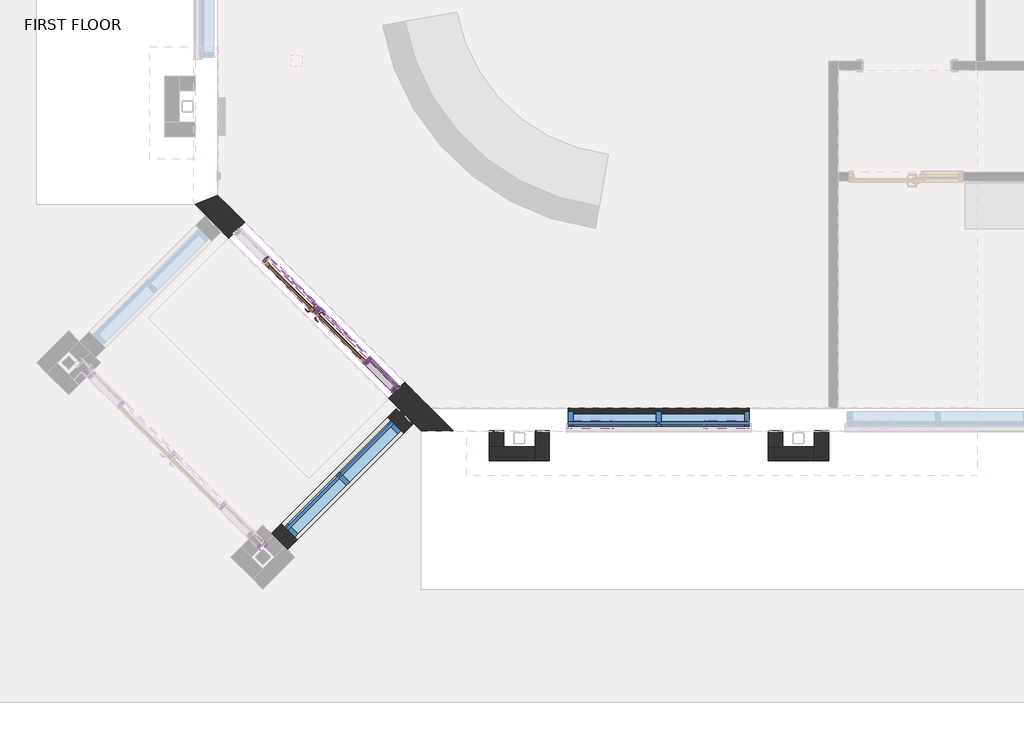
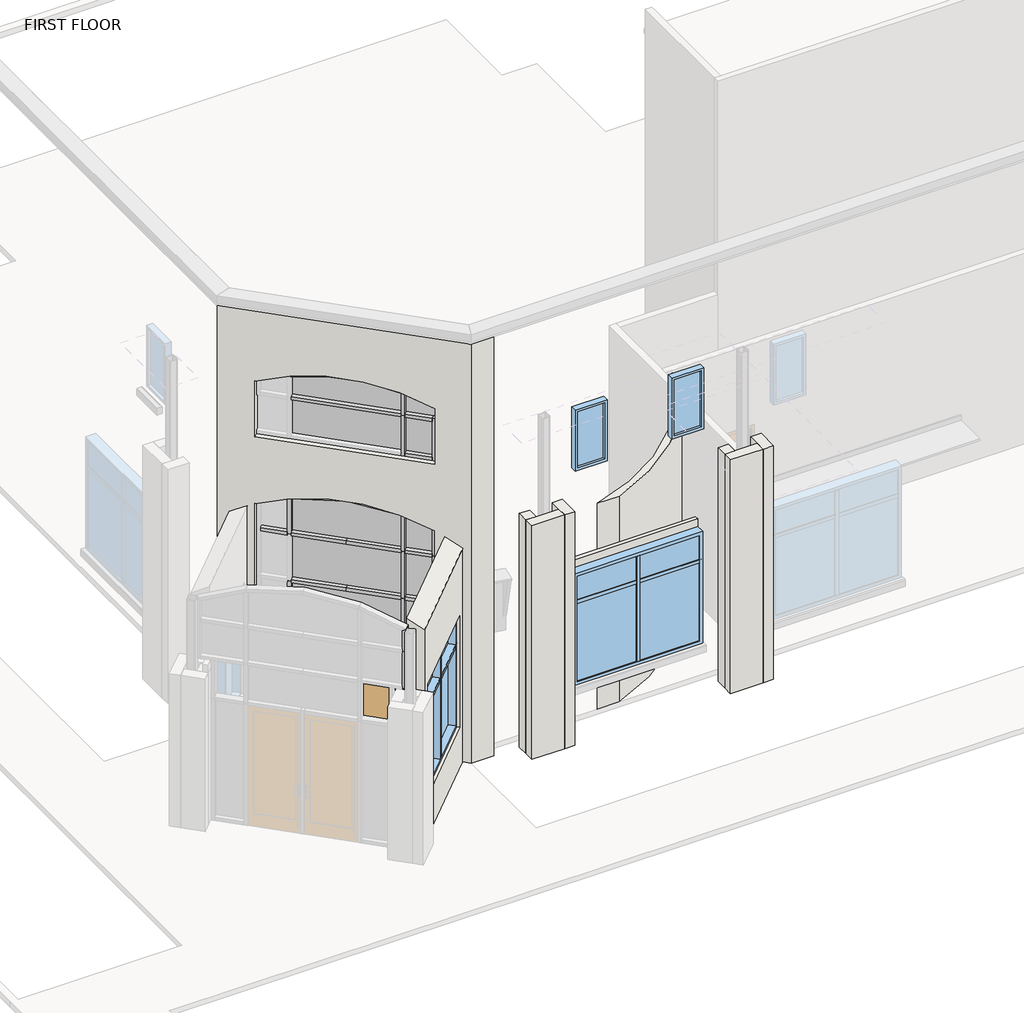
# One storey, part 2 of 7: 38 members, 11 plates, 10 walls, 4 windows, 2 doors.
"""IFC4 building model written with IfcOpenShell, lengths in millimetres."""

from ifc_helpers import new_model, si_unit, point, frame, frame_2d, origin, place, context, project, spatial, polyline, circle_curve, trimmed, segment, composite_curve, outline, extrude, faceted_brep, transform, mapped, element, save
from ifc_brep_helpers import plane_surface, cylinder_surface, revolved_surface, advanced_brep
from components import curtain_wall_store_front_single_med_stile_store_front_single_c6cdc8f1, curtain_wall_store_front_single_med_stile_store_front_single_1d4f68a2, member_1df11e17, member_33497832, member_f0fea5a5, member_5535eeb3, member_57980dff, member_ee409385, member_c7d2ba5d, member_96cc7568, member_ca079636, member_623bfa76, member_6e56d3c6, member_7b70a9c6, member_9ba9524c, member_fa7abc04, member_44ea0774, member_e557a406, member_f133ae23, member_58a4a87b, member_058a004c, member_fd47e183, member_ba732fc4, member_cd5e3336, member_d7af48b5, member_da3023d3, member_091e92f8, member_4be7d09b, system_panel_glazed_7ef526e5, system_panel_glazed_cf9f2373, system_panel_glazed_ee5f99dd, system_panel_glazed_625fda9a, system_panel_glazed_8e084865, system_panel_glazed_9944f469, system_panel_glazed_894d5202, system_panel_glazed_82fe0f80, system_panel_glazed_30649ce8, system_panel_glazed_3c5eea1a, system_panel_glazed_65f6affc, aluminum_exterior_window_single_3885_e2dbf674, storefront_window_28fc684a, window_5003604b

model = new_model("IFC4")

# Units and contexts
model_context = context("Model", 3, world=origin())
ifc_project = project(units=[si_unit("LENGTHUNIT", "METRE", prefix="MILLI")], contexts=[model_context])

# Site, building, storey
site = spatial("IfcSite", under=ifc_project)
building = spatial("IfcBuilding", under=site)
storey = spatial("IfcBuildingStorey", under=building, Name="FIRST FLOOR", Elevation=30480.0)

# Doors
placement = place(None, origin())
curtain_wall_store_front_single_med_stile_store_front_single_shape = curtain_wall_store_front_single_med_stile_store_front_single_c6cdc8f1(model_context)
element("IfcDoor", 1, ObjectType="Curtain Wall-Store Front-Single Med Stile : Store Front Single Door", at=placement, inside=storey, context=model_context, shape_type="MappedRepresentation", body=[
    mapped(curtain_wall_store_front_single_med_stile_store_front_single_shape, transform((-14843.33754, -4975.3705256, 30480.0), x_axis=(0.707106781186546, -0.7071067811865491, 0.0), y_axis=(0.7071067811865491, 0.707106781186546, 0.0), z_axis=(0.0, 0.0, 1.0))),
])
curtain_wall_store_front_single_med_stile_store_front_single_2_shape = curtain_wall_store_front_single_med_stile_store_front_single_1d4f68a2(model_context)
element("IfcDoor", 2, ObjectType="Curtain Wall-Store Front-Single Med Stile : Store Front Single Door", at=placement, inside=storey, context=model_context, shape_type="MappedRepresentation", body=[
    mapped(curtain_wall_store_front_single_med_stile_store_front_single_2_shape, transform((-15525.8370052, -4292.8710604, 30480.0), x_axis=(-0.707106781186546, 0.7071067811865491, 0.0), y_axis=(-0.7071067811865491, -0.707106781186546, 0.0), z_axis=(0.0, 0.0, 1.0))),
])

# Members
member_shape = member_1df11e17(model_context)
element("IfcMember", 3, ObjectType="Rectangular Mullion : 2.5\" x 5\" rectangular", at=placement, inside=storey, context=model_context, shape_type="MappedRepresentation", body=[
    mapped(member_shape, transform((-15889.5373781, -3929.1706875, 32918.4), x_axis=(0.0, 0.0, 1.0), y_axis=(-0.707106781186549, -0.7071067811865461, 0.0), z_axis=(0.707106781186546, -0.7071067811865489, 0.0))),
])
element("IfcMember", 4, ObjectType="Rectangular Mullion : 2.5\" x 5\" rectangular", at=placement, inside=storey, context=model_context, shape_type="MappedRepresentation", body=[
    mapped(member_shape, transform((-14151.8578187, -5666.8502469, 32918.4), x_axis=(0.0, 0.0, 1.0), y_axis=(-0.7071067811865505, -0.7071067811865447, 0.0), z_axis=(0.7071067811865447, -0.7071067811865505, 0.0))),
])
element("IfcMember", 5, ObjectType="Rectangular Mullion : 2.5\" x 5\" rectangular", at=placement, inside=storey, context=model_context, shape_type="MappedRepresentation", body=[
    mapped(member_shape, transform((-14151.8578187, -5666.8502469, 34442.4), x_axis=(0.0, 0.0, 1.0), y_axis=(-0.7071067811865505, -0.7071067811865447, 0.0), z_axis=(0.7071067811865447, -0.7071067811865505, 0.0))),
])
element("IfcMember", 6, ObjectType="Rectangular Mullion : 2.5\" x 5\" rectangular", at=placement, inside=storey, context=model_context, shape_type="MappedRepresentation", body=[
    mapped(member_shape, transform((-15889.5373781, -3929.1706875, 34442.4), x_axis=(0.0, 0.0, 1.0), y_axis=(-0.70710678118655, -0.7071067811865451, 0.0), z_axis=(0.7071067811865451, -0.70710678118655, 0.0))),
])
element("IfcMember", 7, ObjectType="Rectangular Mullion : 2.5\" x 5\" rectangular", at=placement, inside=storey, context=model_context, shape_type="MappedRepresentation", body=[
    mapped(member_shape, transform((-14151.8578187, -5666.8502469, 33502.6), x_axis=(0.0, 0.0, 1.0), y_axis=(-0.7071067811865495, -0.7071067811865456, 0.0), z_axis=(0.7071067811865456, -0.7071067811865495, 0.0))),
])
element("IfcMember", 8, ObjectType="Rectangular Mullion : 2.5\" x 5\" rectangular", at=placement, inside=storey, context=model_context, shape_type="MappedRepresentation", body=[
    mapped(member_shape, transform((-14151.8578187, -5666.8502469, 37160.2), x_axis=(0.0, 0.0, 1.0), y_axis=(-0.7071067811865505, -0.7071067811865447, 0.0), z_axis=(0.7071067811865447, -0.7071067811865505, 0.0))),
])
member_2_shape = member_33497832(model_context)
element("IfcMember", 9, ObjectType="Rectangular Mullion : 2.5\" x 5\" rectangular", at=placement, inside=storey, context=model_context, shape_type="MappedRepresentation", body=[
    mapped(member_2_shape, transform((-15207.0379129, -4611.6701527, 32918.4), x_axis=(0.0, 0.0, 1.0), y_axis=(-0.7071067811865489, -0.7071067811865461, 0.0), z_axis=(0.7071067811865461, -0.7071067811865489, 0.0))),
])
element("IfcMember", 10, ObjectType="Rectangular Mullion : 2.5\" x 5\" rectangular", at=placement, inside=storey, context=model_context, shape_type="MappedRepresentation", body=[
    mapped(member_2_shape, transform((-14524.5384477, -5294.1696179, 32918.4), x_axis=(0.0, 0.0, 1.0), y_axis=(-0.7071067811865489, -0.7071067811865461, 0.0), z_axis=(0.7071067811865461, -0.7071067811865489, 0.0))),
])
member_3_shape = member_f0fea5a5(model_context)
element("IfcMember", 11, ObjectType="Rectangular Mullion : 2.5\" x 5\" rectangular", at=placement, inside=storey, context=model_context, shape_type="MappedRepresentation", body=[
    mapped(member_3_shape, transform((-14502.0878074, -5316.6202582, 30480.0), x_axis=(0.707106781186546, -0.7071067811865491, 0.0), y_axis=(-0.7071067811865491, -0.707106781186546, 0.0), z_axis=(0.0, 0.0, -1.0))),
])
element("IfcMember", 12, ObjectType="Rectangular Mullion : 2.5\" x 5\" rectangular", at=placement, inside=storey, context=model_context, shape_type="MappedRepresentation", body=[
    mapped(member_3_shape, transform((-15867.0867378, -3951.6213278, 30480.0), x_axis=(0.707106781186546, -0.7071067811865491, 0.0), y_axis=(-0.7071067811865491, -0.707106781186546, 0.0), z_axis=(0.0, 0.0, -1.0))),
])
member_4_shape = member_5535eeb3(model_context)
element("IfcMember", 13, ObjectType="Rectangular Mullion : 2.5\" x 5\" rectangular", at=placement, inside=storey, context=model_context, shape_type="MappedRepresentation", body=[
    mapped(member_4_shape, transform((-14479.6371671, -5339.0708985, 30480.0), x_axis=(0.0, 0.0, -1.0), y_axis=(-0.7071067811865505, -0.7071067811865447, 0.0), z_axis=(-0.7071067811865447, 0.7071067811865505, 0.0))),
])
element("IfcMember", 14, ObjectType="Rectangular Mullion : 2.5\" x 5\" rectangular", at=placement, inside=storey, context=model_context, shape_type="MappedRepresentation", body=[
    mapped(member_4_shape, transform((-14479.6371671, -5339.0708985, 36347.4), x_axis=(0.0, 0.0, -1.0), y_axis=(-0.7071067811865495, -0.7071067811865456, 0.0), z_axis=(-0.7071067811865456, 0.7071067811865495, 0.0))),
])
member_5_shape = member_57980dff(model_context)
element("IfcMember", 15, ObjectType="Rectangular Mullion : 2.5\" x 5\" rectangular", at=placement, inside=storey, context=model_context, shape_type="MappedRepresentation", body=[
    mapped(member_5_shape, transform((-15184.5872726, -4634.120793, 30480.0), x_axis=(0.707106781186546, -0.7071067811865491, 0.0), y_axis=(-0.7071067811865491, -0.707106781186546, 0.0), z_axis=(0.0, 0.0, -1.0))),
])
member_6_shape = member_ee409385(model_context)
element("IfcMember", 16, ObjectType="Rectangular Mullion : 2.5\" x 5\" rectangular", at=placement, inside=storey, context=model_context, shape_type="MappedRepresentation", body=[
    mapped(member_6_shape, transform((-14106.9565381, -5711.7515275, 30480.0), x_axis=(0.707106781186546, -0.7071067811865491, 0.0), y_axis=(-0.7071067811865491, -0.707106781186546, 0.0), z_axis=(0.0, 0.0, -1.0))),
])
member_7_shape = member_c7d2ba5d(model_context)
element("IfcMember", 17, ObjectType="Rectangular Mullion : 2.5\" x 5\" rectangular", at=placement, inside=storey, context=model_context, shape_type="MappedRepresentation", body=[
    mapped(member_7_shape, transform((-15184.5872726, -4634.120793, 34442.4), x_axis=(0.0, 0.0, 1.0), y_axis=(-0.7071067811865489, -0.7071067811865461, 0.0), z_axis=(0.7071067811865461, -0.7071067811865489, 0.0))),
])
element("IfcMember", 18, ObjectType="Rectangular Mullion : 2.5\" x 5\" rectangular", at=placement, inside=storey, context=model_context, shape_type="MappedRepresentation", body=[
    mapped(member_7_shape, transform((-15184.5872726, -4634.120793, 33502.6), x_axis=(0.0, 0.0, 1.0), y_axis=(-0.7071067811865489, -0.7071067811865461, 0.0), z_axis=(0.7071067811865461, -0.7071067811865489, 0.0))),
])
element("IfcMember", 19, ObjectType="Rectangular Mullion : 2.5\" x 5\" rectangular", at=placement, inside=storey, context=model_context, shape_type="MappedRepresentation", body=[
    mapped(member_7_shape, transform((-14524.5384477, -5294.1696179, 34442.4), x_axis=(0.0, 0.0, 1.0), y_axis=(-0.7071067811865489, -0.7071067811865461, 0.0), z_axis=(0.7071067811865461, -0.7071067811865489, 0.0))),
])
element("IfcMember", 20, ObjectType="Rectangular Mullion : 2.5\" x 5\" rectangular", at=placement, inside=storey, context=model_context, shape_type="MappedRepresentation", body=[
    mapped(member_7_shape, transform((-14524.5384477, -5294.1696179, 33502.6), x_axis=(0.0, 0.0, 1.0), y_axis=(-0.7071067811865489, -0.7071067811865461, 0.0), z_axis=(0.7071067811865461, -0.7071067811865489, 0.0))),
])
member_8_shape = member_96cc7568(model_context)
element("IfcMember", 21, ObjectType="Rectangular Mullion : 2.5\" x 5\" rectangular", at=placement, inside=storey, context=model_context, shape_type="MappedRepresentation", body=[
    mapped(member_8_shape, transform((-14502.0878074, -5316.6202582, 32918.4), x_axis=(0.707106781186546, -0.7071067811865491, 0.0), y_axis=(-0.7071067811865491, -0.707106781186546, 0.0), z_axis=(0.0, 0.0, -1.0))),
])
element("IfcMember", 22, ObjectType="Rectangular Mullion : 2.5\" x 5\" rectangular", at=placement, inside=storey, context=model_context, shape_type="MappedRepresentation", body=[
    mapped(member_8_shape, transform((-15867.0867378, -3951.6213278, 32918.4), x_axis=(0.707106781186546, -0.7071067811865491, 0.0), y_axis=(-0.7071067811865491, -0.707106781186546, 0.0), z_axis=(0.0, 0.0, -1.0))),
])
member_9_shape = member_ca079636(model_context)
element("IfcMember", 23, ObjectType="Rectangular Mullion : 2.5\" x 5\" rectangular", at=placement, inside=storey, context=model_context, shape_type="MappedRepresentation", body=[
    mapped(member_9_shape, transform((-14502.0878074, -5316.6202582, 33502.6), x_axis=(0.707106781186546, -0.7071067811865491, 0.0), y_axis=(-0.7071067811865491, -0.707106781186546, 0.0), z_axis=(0.0, 0.0, -1.0))),
])
member_10_shape = member_623bfa76(model_context)
element("IfcMember", 24, ObjectType="Rectangular Mullion : 2.5\" x 5\" rectangular", at=placement, inside=storey, context=model_context, shape_type="MappedRepresentation", body=[
    mapped(member_10_shape, transform((-14106.9565381, -5711.7515275, 32918.4), x_axis=(0.707106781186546, -0.7071067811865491, 0.0), y_axis=(-0.7071067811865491, -0.707106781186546, 0.0), z_axis=(0.0, 0.0, -1.0))),
])
member_11_shape = member_6e56d3c6(model_context)
element("IfcMember", 25, ObjectType="Rectangular Mullion : 2.5\" x 5\" rectangular", at=placement, inside=storey, context=model_context, shape_type="MappedRepresentation", body=[
    mapped(member_11_shape, transform((-14502.0878074, -5316.6202582, 34442.4), x_axis=(0.707106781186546, -0.7071067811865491, 0.0), y_axis=(-0.7071067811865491, -0.707106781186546, 0.0), z_axis=(0.0, 0.0, -1.0))),
])
member_12_shape = member_7b70a9c6(model_context)
element("IfcMember", 26, ObjectType="Rectangular Mullion : 2.5\" x 5\" rectangular", at=placement, inside=storey, context=model_context, shape_type="MappedRepresentation", body=[
    mapped(member_12_shape, transform((-15867.0867378, -3951.6213278, 34442.4), x_axis=(0.707106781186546, -0.7071067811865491, 0.0), y_axis=(-0.7071067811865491, -0.707106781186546, 0.0), z_axis=(0.0, 0.0, -1.0))),
])
member_13_shape = member_9ba9524c(model_context)
element("IfcMember", 27, ObjectType="Rectangular Mullion : 2.5\" x 5\" rectangular", at=placement, inside=storey, context=model_context, shape_type="MappedRepresentation", body=[
    mapped(member_13_shape, transform((-15184.5872726, -4634.120793, 35335.2420044), x_axis=(-0.0008797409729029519, 0.0008797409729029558, 0.9999992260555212), y_axis=(-0.7071067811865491, -0.7071067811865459, 0.0), z_axis=(0.7071062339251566, -0.7071062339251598, 0.0012441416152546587))),
])
member_14_shape = member_fa7abc04(model_context)
element("IfcMember", 28, ObjectType="Rectangular Mullion : 2.5\" x 5\" rectangular", at=placement, inside=storey, context=model_context, shape_type="MappedRepresentation", body=[
    mapped(member_14_shape, transform((-14502.0878074, -5316.6202582, 35209.163552), x_axis=(0.1824814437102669, -0.1824814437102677, 0.9661268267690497), y_axis=(-0.7071067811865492, -0.707106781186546, 0.0), z_axis=(0.6831548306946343, -0.6831548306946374, -0.2580677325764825))),
])
member_15_shape = member_44ea0774(model_context)
element("IfcMember", 29, ObjectType="Rectangular Mullion : 2.5\" x 5\" rectangular", at=placement, inside=storey, context=model_context, shape_type="MappedRepresentation", body=[
    mapped(member_15_shape, transform((-14106.9565381, -5711.7515275, 35011.0242412), x_axis=(0.2886379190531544, -0.28863791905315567, 0.9128944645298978), y_axis=(-0.7071067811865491, -0.707106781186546, 0.0), z_axis=(0.6455138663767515, -0.6455138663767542, -0.4081956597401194))),
])
member_16_shape = member_e557a406(model_context)
element("IfcMember", 30, ObjectType="Rectangular Mullion : 2.5\" x 5\" rectangular", at=placement, inside=storey, context=model_context, shape_type="MappedRepresentation", body=[
    mapped(member_16_shape, transform((-14106.9565381, -5711.7515275, 33502.6), x_axis=(0.707106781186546, -0.7071067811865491, 0.0), y_axis=(-0.7071067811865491, -0.707106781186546, 0.0), z_axis=(0.0, 0.0, -1.0))),
])
member_17_shape = member_f133ae23(model_context)
element("IfcMember", 31, ObjectType="Rectangular Mullion : 2.5\" x 5\" rectangular", at=placement, inside=storey, context=model_context, shape_type="MappedRepresentation", body=[
    mapped(member_17_shape, transform((-14106.9565381, -5711.7515275, 34442.4), x_axis=(0.707106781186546, -0.7071067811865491, 0.0), y_axis=(-0.7071067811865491, -0.707106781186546, 0.0), z_axis=(0.0, 0.0, -1.0))),
])
member_18_shape = member_58a4a87b(model_context)
element("IfcMember", 32, ObjectType="Rectangular Mullion : 2.5\" x 5\" rectangular", at=placement, inside=storey, context=model_context, shape_type="MappedRepresentation", body=[
    mapped(member_18_shape, transform((-14502.0878074, -5316.6202582, 36347.4), x_axis=(0.7071067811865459, -0.7071067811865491, 0.0), y_axis=(-0.7071067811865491, -0.7071067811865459, 0.0), z_axis=(0.0, 0.0, -1.0))),
])
member_19_shape = member_058a004c(model_context)
element("IfcMember", 33, ObjectType="Rectangular Mullion : 2.5\" x 5\" rectangular", at=placement, inside=storey, context=model_context, shape_type="MappedRepresentation", body=[
    mapped(member_19_shape, transform((-14502.0878074, -5316.6202582, 37160.2), x_axis=(0.7071067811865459, -0.7071067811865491, 0.0), y_axis=(-0.7071067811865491, -0.7071067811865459, 0.0), z_axis=(0.0, 0.0, -1.0))),
])
member_20_shape = member_fd47e183(model_context)
element("IfcMember", 34, ObjectType="Rectangular Mullion : 2.5\" x 5\" rectangular", at=placement, inside=storey, context=model_context, shape_type="MappedRepresentation", body=[
    mapped(member_20_shape, transform((-14524.5384477, -5294.1696179, 37160.2), x_axis=(0.0, 0.0, 1.0), y_axis=(-0.7071067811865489, -0.7071067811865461, 0.0), z_axis=(0.7071067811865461, -0.7071067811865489, 0.0))),
])
member_21_shape = member_ba732fc4(model_context)
element("IfcMember", 35, ObjectType="Rectangular Mullion : 2.5\" x 5\" rectangular", at=placement, inside=storey, context=model_context, shape_type="MappedRepresentation", body=[
    mapped(member_21_shape, transform((-15894.9395193, -7831.7583014, 33680.4), x_axis=(0.707106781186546, -0.7071067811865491, 0.0), y_axis=(-0.7071067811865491, -0.707106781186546, 0.0), z_axis=(0.0, 0.0, -1.0))),
])
member_22_shape = member_cd5e3336(model_context)
element("IfcMember", 36, ObjectType="Rectangular Mullion : 2.5\" x 5\" rectangular", at=placement, inside=storey, context=model_context, shape_type="MappedRepresentation", body=[
    mapped(member_22_shape, transform((-15894.9395193, -7831.7583014, 34442.4), x_axis=(0.707106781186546, -0.7071067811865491, 0.0), y_axis=(-0.7071067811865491, -0.707106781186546, 0.0), z_axis=(0.0, 0.0, -1.0))),
])
member_23_shape = member_d7af48b5(model_context)
element("IfcMember", 37, ObjectType="Rectangular Mullion : 2.5\" x 5\" rectangular", at=placement, inside=storey, context=model_context, shape_type="MappedRepresentation", body=[
    mapped(member_23_shape, transform((-15894.9395193, -7831.7583014, 33705.8), x_axis=(0.707106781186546, -0.7071067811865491, 0.0), y_axis=(-0.7071067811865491, -0.707106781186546, 0.0), z_axis=(0.0, 0.0, -1.0))),
])
member_24_shape = member_da3023d3(model_context)
element("IfcMember", 38, ObjectType="Rectangular Mullion : 2.5\" x 5\" rectangular", at=placement, inside=storey, context=model_context, shape_type="MappedRepresentation", body=[
    mapped(member_24_shape, transform((-14106.9565381, -5711.7515275, 37458.6082327), x_axis=(0.28863791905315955, -0.2886379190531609, 0.9128944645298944), y_axis=(-0.7071067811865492, -0.7071067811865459, 0.0), z_axis=(0.6455138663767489, -0.645513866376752, -0.4081956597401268))),
])
member_25_shape = member_091e92f8(model_context)
element("IfcMember", 39, ObjectType="Rectangular Mullion : 2.5\" x 5\" rectangular", at=placement, inside=storey, context=model_context, shape_type="MappedRepresentation", body=[
    mapped(member_25_shape, transform((-14106.9565381, -5711.7515275, 36347.4), x_axis=(0.7071067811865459, -0.7071067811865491, 0.0), y_axis=(-0.7071067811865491, -0.7071067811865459, 0.0), z_axis=(0.0, 0.0, -1.0))),
])
member_26_shape = member_4be7d09b(model_context)
element("IfcMember", 40, ObjectType="Rectangular Mullion : 2.5\" x 5\" rectangular", at=placement, inside=storey, context=model_context, shape_type="MappedRepresentation", body=[
    mapped(member_26_shape, transform((-14502.0878074, -5316.6202582, 37656.7475435), x_axis=(0.1824814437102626, -0.18248144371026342, 0.9661268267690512), y_axis=(-0.707106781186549, -0.7071067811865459, 0.0), z_axis=(0.6831548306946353, -0.6831548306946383, -0.2580677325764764))),
])

# Plates
system_panel_glazed_shape = system_panel_glazed_7ef526e5(model_context)
element("IfcPlate", 41, ObjectType="System Panel : Glazed", at=placement, inside=storey, context=model_context, shape_type="MappedRepresentation", body=[
    mapped(system_panel_glazed_shape, transform((-14315.7474929, -5502.9605727, 30543.5), x_axis=(0.707106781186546, -0.7071067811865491, 0.0), y_axis=(0.7071067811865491, 0.707106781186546, 0.0), z_axis=(0.0, 0.0, 1.0))),
])
system_panel_glazed_2_shape = system_panel_glazed_cf9f2373(model_context)
element("IfcPlate", 42, ObjectType="System Panel : Glazed", at=placement, inside=storey, context=model_context, shape_type="MappedRepresentation", body=[
    mapped(system_panel_glazed_2_shape, transform((-14315.7474929, -5502.9605727, 32950.15), x_axis=(0.707106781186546, -0.7071067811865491, 0.0), y_axis=(0.7071067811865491, 0.707106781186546, 0.0), z_axis=(0.0, 0.0, 1.0))),
])
system_panel_glazed_3_shape = system_panel_glazed_ee5f99dd(model_context)
element("IfcPlate", 43, ObjectType="System Panel : Glazed", at=placement, inside=storey, context=model_context, shape_type="MappedRepresentation", body=[
    mapped(system_panel_glazed_3_shape, transform((-15184.5872726, -4634.120793, 32950.15), x_axis=(0.707106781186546, -0.7071067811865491, 0.0), y_axis=(0.7071067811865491, 0.707106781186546, 0.0), z_axis=(0.0, 0.0, 1.0))),
])
system_panel_glazed_4_shape = system_panel_glazed_625fda9a(model_context)
element("IfcPlate", 44, ObjectType="System Panel : Glazed", at=placement, inside=storey, context=model_context, shape_type="MappedRepresentation", body=[
    mapped(system_panel_glazed_4_shape, transform((-14315.7474929, -5502.9605727, 33534.35), x_axis=(0.707106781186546, -0.7071067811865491, 0.0), y_axis=(0.7071067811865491, 0.707106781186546, 0.0), z_axis=(0.0, 0.0, 1.0))),
])
system_panel_glazed_5_shape = system_panel_glazed_8e084865(model_context)
element("IfcPlate", 45, ObjectType="System Panel : Glazed", at=placement, inside=storey, context=model_context, shape_type="MappedRepresentation", body=[
    mapped(system_panel_glazed_5_shape, transform((-15184.5872726, -4634.120793, 33534.35), x_axis=(0.707106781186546, -0.7071067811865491, 0.0), y_axis=(0.7071067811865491, 0.707106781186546, 0.0), z_axis=(0.0, 0.0, 1.0))),
])
system_panel_glazed_6_shape = system_panel_glazed_9944f469(model_context)
element("IfcPlate", 46, ObjectType="System Panel : Glazed", at=placement, inside=storey, context=model_context, shape_type="MappedRepresentation", body=[
    mapped(system_panel_glazed_6_shape, transform((-15184.5872726, -4634.120793, 34474.15), x_axis=(0.707106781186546, -0.7071067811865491, 0.0), y_axis=(0.7071067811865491, 0.707106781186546, 0.0), z_axis=(0.0, 0.0, 1.0))),
])
system_panel_glazed_7_shape = system_panel_glazed_894d5202(model_context)
element("IfcPlate", 47, ObjectType="System Panel : Glazed", at=placement, inside=storey, context=model_context, shape_type="MappedRepresentation", body=[
    mapped(system_panel_glazed_7_shape, transform((-14315.7474929, -5502.9605727, 34474.15), x_axis=(0.707106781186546, -0.7071067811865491, 0.0), y_axis=(0.7071067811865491, 0.707106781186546, 0.0), z_axis=(0.0, 0.0, 1.0))),
])
system_panel_glazed_8_shape = system_panel_glazed_82fe0f80(model_context)
element("IfcPlate", 48, ObjectType="System Panel : Glazed", at=placement, inside=storey, context=model_context, shape_type="MappedRepresentation", body=[
    mapped(system_panel_glazed_8_shape, transform((-14315.7474929, -5502.9605727, 36410.9), x_axis=(0.7071067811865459, -0.7071067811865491, 0.0), y_axis=(0.7071067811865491, 0.7071067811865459, 0.0), z_axis=(0.0, 0.0, 1.0))),
])
system_panel_glazed_9_shape = system_panel_glazed_30649ce8(model_context)
element("IfcPlate", 49, ObjectType="System Panel : Glazed", at=placement, inside=storey, context=model_context, shape_type="MappedRepresentation", body=[
    mapped(system_panel_glazed_9_shape, transform((-15184.5872726, -4634.120793, 36410.9), x_axis=(0.7071067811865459, -0.7071067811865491, 0.0), y_axis=(0.7071067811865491, 0.7071067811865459, 0.0), z_axis=(0.0, 0.0, 1.0))),
])
system_panel_glazed_10_shape = system_panel_glazed_3c5eea1a(model_context)
element("IfcPlate", 50, ObjectType="System Panel : Glazed", at=placement, inside=storey, context=model_context, shape_type="MappedRepresentation", body=[
    mapped(system_panel_glazed_10_shape, transform((-15184.5872726, -4634.120793, 37191.95), x_axis=(0.7071067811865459, -0.7071067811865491, 0.0), y_axis=(0.7071067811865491, 0.7071067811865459, 0.0), z_axis=(0.0, 0.0, 1.0))),
])
system_panel_glazed_11_shape = system_panel_glazed_65f6affc(model_context)
element("IfcPlate", 51, ObjectType="System Panel : Glazed", at=placement, inside=storey, context=model_context, shape_type="MappedRepresentation", body=[
    mapped(system_panel_glazed_11_shape, transform((-14293.2968526, -5525.411213, 37191.95), x_axis=(0.7071067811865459, -0.7071067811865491, 0.0), y_axis=(0.7071067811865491, 0.7071067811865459, 0.0), z_axis=(0.0, 0.0, 1.0))),
])

# Walls
element("IfcWall", 52, ObjectType="Exterior - Brick on Mtl. Stud", at=placement, inside=storey, context=model_context, shape_type="AdvancedBrep", body=[
    advanced_brep(
    [(-16154.4549337, -3448.726985, 30480.0), (-16519.635253, -3083.5466657, 30480.0), (-16519.635253, -3083.5466657, 38890.816921), (-13650.1829592, -5952.9989595, 38890.816921), (-13647.0079592, -5956.1739595, 38899.5401618), (-13647.0079592, -5956.1739595, 39014.4), (-13345.3829592, -6257.7989595, 39014.4), (-13345.3829592, -6257.7989595, 30480.0), (-13999.1934646, -5603.988454, 30480.0), (-13999.1934646, -5603.988454, 35011.0242412), (-16154.4549337, -3448.726985, 35006.8677208), (-16154.4549337, -3448.726985, 37454.4517124), (-16154.4549337, -3448.726985, 36347.4), (-13999.1934646, -5603.988454, 36347.4), (-13999.1934646, -5603.988454, 37458.6082327), (-13776.435253, -6257.7989595, 39014.4), (-16824.435253, -3209.7989595, 39014.4), (-16824.435253, -3209.7989595, 30480.0), (-16680.7511551, -3353.4830574, 30480.0), (-16465.2250082, -3569.0092043, 30480.0), (-16369.9810806, -3664.2531319, 30480.0), (-16369.9810806, -3664.2531319, 35006.8677208), (-14214.7196115, -5819.514601, 35011.0242412), (-14214.7196115, -5819.514601, 30480.0), (-14092.9892813, -5941.2449312, 30480.0), (-13877.4631344, -6156.7710781, 30480.0), (-13776.435253, -6257.7989595, 30480.0), (-16369.9810806, -3664.2531319, 36347.4), (-16369.9810806, -3664.2531319, 37454.4517124), (-14214.7196115, -5819.514601, 37458.6082327), (-14214.7196115, -5819.514601, 36347.4), (-13651.4980873, -5956.1739595, 39014.4), (-16522.810253, -3084.8617937, 39014.4), (-16522.810253, -3084.8617937, 38899.5401618), (-13651.4980873, -5956.1739595, 38899.5401618)],
    [
        (0, 1),
        (1, 2),
        (2, 3),
        (3, 4),
        (4, 5),
        (5, 6),
        (6, 7),
        (7, 8),
        (8, 9),
        (9, 10, circle_curve(frame((-15073.5496635, -4529.6322552, 31613.0859867), z_axis=(-0.7071067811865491, -0.707106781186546, 0.0), x_axis=(-0.707106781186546, 0.7071067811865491, 0.0)), 3722.1588985)),
        (10, 0),
        (11, 12),
        (12, 13),
        (13, 14),
        (14, 11, circle_curve(frame((-15073.5496635, -4529.6322552, 34060.6699782), z_axis=(-0.7071067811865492, -0.7071067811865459, 0.0), x_axis=(-0.7071067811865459, 0.7071067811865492, 0.0)), 3722.1588985)),
        (15, 16),
        (16, 17),
        (17, 18),
        (18, 19),
        (19, 20),
        (20, 21),
        (21, 22, circle_curve(frame((-15289.0758104, -4745.1584021, 31613.0859867), z_axis=(0.7071067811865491, 0.707106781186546, 0.0), x_axis=(-0.707106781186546, 0.7071067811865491, 0.0)), 3722.1588985)),
        (22, 23),
        (23, 24),
        (24, 25),
        (25, 26),
        (26, 15),
        (27, 28),
        (28, 29, circle_curve(frame((-15289.0758104, -4745.1584021, 34060.6699782), z_axis=(0.7071067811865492, 0.7071067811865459, 0.0), x_axis=(-0.7071067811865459, 0.7071067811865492, 0.0)), 3722.1588985)),
        (29, 30),
        (30, 27),
        (17, 1),
        (0, 20),
        (7, 26),
        (23, 8),
        (15, 6),
        (5, 31),
        (31, 32),
        (32, 16),
        (10, 21),
        (22, 9),
        (32, 33),
        (33, 2),
        (27, 12),
        (11, 28),
        (14, 29),
        (13, 30),
        (4, 34),
        (34, 31),
        (3, 34),
        (34, 33),
    ],
    [
        plane_surface(frame((-11763.6128698, -7839.5690489, 30480.0), z_axis=(0.707106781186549, 0.7071067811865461, 0.0), x_axis=(-0.7071067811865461, 0.707106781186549, 0.0))),
        plane_surface(frame((-11979.1390167, -8055.0951958, 30480.0), z_axis=(-0.707106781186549, -0.7071067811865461, 0.0), x_axis=(0.7071067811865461, -0.707106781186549, 0.0))),
        plane_surface(frame((-13605.5460327, -5997.635886, 30480.0), z_axis=(0.0, 0.0, -1.0000000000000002), x_axis=(-0.7071067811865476, -0.7071067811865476, 0.0))),
        plane_surface(frame((-16564.2721796, -3038.9097391, 39014.4), z_axis=(0.0, 0.0, 1.0), x_axis=(-0.7071067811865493, -0.7071067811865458, 0.0))),
        plane_surface(frame((-16046.6918602, -3340.9639115, 30480.0), z_axis=(0.7071067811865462, -0.7071067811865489, 0.0), x_axis=(-0.7071067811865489, -0.7071067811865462, 0.0))),
        plane_surface(frame((-13891.4303912, -5496.2253806, 35011.0242412), z_axis=(-0.7071067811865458, 0.7071067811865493, 0.0), x_axis=(-0.7071067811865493, -0.7071067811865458, 0.0))),
        revolved_surface(polyline([(-17705.513461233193, -1897.6684573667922, 31613.0859867), (-17921.039608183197, -2113.1946043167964, 31613.0859867)]), (-15172.3324808, -4628.4150725, 31613.0859867), (0.7071067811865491, 0.707106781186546, 0.0)),
        plane_surface(frame((-13605.5460327, -6257.7989595, 30480.0), z_axis=(0.0, -1.0, 0.0), x_axis=(1.0, 0.0, 0.0))),
        plane_surface(frame((-16519.635253, -3083.5466657, 30480.0), z_axis=(-0.3826834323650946, 0.9238795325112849, 0.0), x_axis=(-0.9238795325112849, -0.3826834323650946, 0.0))),
        plane_surface(frame((-16046.6918602, -3340.9639115, 36347.4), z_axis=(0.7071067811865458, -0.7071067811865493, 0.0), x_axis=(-0.7071067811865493, -0.7071067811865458, 0.0))),
        revolved_surface(polyline([(-17705.513461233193, -1897.6684573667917, 34060.6699782), (-17921.039608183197, -2113.194604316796, 34060.6699782)]), (-15172.3324808, -4628.4150725, 34060.6699782), (0.7071067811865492, 0.7071067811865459, 0.0)),
        plane_surface(frame((-13891.4303912, -5496.2253806, 37458.6082327), z_axis=(-0.7071067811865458, 0.7071067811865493, 0.0), x_axis=(-0.7071067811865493, -0.7071067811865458, 0.0))),
        plane_surface(frame((-13891.4303912, -5496.2253806, 36347.4), z_axis=(0.0, 0.0, 1.0), x_axis=(-0.7071067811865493, -0.7071067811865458, 0.0))),
        plane_surface(frame((-365.235253, -5956.1739595, 39019.2285111), z_axis=(0.0, 1.0, 0.0), x_axis=(-1.0, 0.0, 0.0))),
        plane_surface(frame((-365.235253, -5956.1739595, 38899.5401618), z_axis=(0.0, 0.9396926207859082, 0.3420201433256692), x_axis=(-1.0, 0.0, 0.0))),
        plane_surface(frame((-13651.4980873, -5956.1739595, 39019.2285111), z_axis=(0.7071067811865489, 0.7071067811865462, 0.0), x_axis=(-0.7071067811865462, 0.7071067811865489, 0.0))),
        plane_surface(frame((-13651.4980873, -5956.1739595, 38899.5401618), z_axis=(0.6644630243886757, 0.6644630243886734, 0.3420201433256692), x_axis=(-0.7071067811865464, 0.7071067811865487, 0.0))),
    ],
    [
        (0, [[1, 2, 3, 4, 5, 6, 7, 8, 9, 10, 11], [12, 13, 14, 15]]),
        (1, [[16, 17, 18, 19, 20, 21, 22, 23, 24, 25, 26, 27], [28, 29, 30, 31]]),
        (2, [[32, -1, 33, -20, -19, -18]]),
        (2, [[-8, 34, -26, -25, -24, 35]]),
        (3, [[-16, 36, -6, 37, 38, 39]]),
        (4, [[-11, 40, -21, -33]]),
        (5, [[-9, -35, -23, 41]]),
        (6, [[-41, -22, -40, -10]]),
        (7, [[-7, -36, -27, -34]]),
        (8, [[-32, -17, -39, 42, 43, -2]]),
        (9, [[44, -12, 45, -28]]),
        (10, [[-45, -15, 46, -29]]),
        (11, [[-46, -14, 47, -30]]),
        (12, [[-44, -31, -47, -13]]),
        (13, [[48, 49, -37, -5]]),
        (14, [[50, -48, -4]]),
        (15, [[51, -42, -38, -49]]),
        (16, [[-51, -50, -3, -43]]),
    ],
),
])
element("IfcWall", 53, ObjectType="Exterior - Brick on Mtl. Stud", at=placement, inside=storey, context=model_context, shape_type="AdvancedBrep", body=[
    advanced_brep(
    [(-15580.0108406, -7859.3187843, 30480.0), (-13877.4631344, -6156.7710781, 30480.0), (-13877.4631344, -6156.7710781, 34754.6088931), (-15580.0108406, -7859.3187843, 34754.6088931), (-14010.3164978, -6289.6244415, 33528.0), (-14010.3164978, -6289.6244415, 31292.8), (-15447.1574772, -7726.4654209, 31292.8), (-15447.1574772, -7726.4654209, 33528.0), (-15795.5369875, -7643.7926374, 30480.0), (-15795.5369875, -7643.7926374, 34928.688631), (-14092.9892813, -5941.2449312, 34928.688631), (-14092.9892813, -5941.2449312, 30480.0), (-14225.8426447, -6074.0982946, 33528.0), (-15662.6836241, -7510.939274, 33528.0), (-15662.6836241, -7510.939274, 31292.8), (-14225.8426447, -6074.0982946, 31292.8)],
    [
        (0, 1),
        (1, 2),
        (2, 3),
        (3, 0),
        (4, 5),
        (5, 6),
        (6, 7),
        (7, 4),
        (8, 9),
        (9, 10),
        (10, 11),
        (11, 8),
        (12, 13),
        (13, 14),
        (14, 15),
        (15, 12),
        (0, 8),
        (11, 1),
        (10, 2, circle_curve(frame((-15289.0758104, -4745.1584021, 31613.0859867), z_axis=(0.707106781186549, 0.7071067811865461, 0.0), x_axis=(0.7071067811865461, -0.707106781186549, 0.0)), 3722.1588985)),
        (3, 9, circle_curve(frame((-16991.6235166, -6447.7061083, 31613.0859867), z_axis=(-0.707106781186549, -0.7071067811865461, 0.0), x_axis=(0.7071067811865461, -0.707106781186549, 0.0)), 3722.1588985)),
        (4, 12),
        (15, 5),
        (14, 6),
        (13, 7),
    ],
    [
        plane_surface(frame((-15580.0108406, -7859.3187843, 30480.0), z_axis=(0.7071067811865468, -0.7071067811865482, 0.0), x_axis=(0.7071067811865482, 0.7071067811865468, 0.0))),
        plane_surface(frame((-15795.5369875, -7643.7926374, 30480.0), z_axis=(-0.7071067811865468, 0.7071067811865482, 0.0), x_axis=(-0.7071067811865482, -0.7071067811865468, 0.0))),
        plane_surface(frame((-15648.4852935, -7927.7932372, 30480.0), z_axis=(0.0, 0.0, -1.0), x_axis=(-0.7071067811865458, 0.7071067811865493, 0.0))),
        plane_surface(frame((-15278.1167898, -4756.1174227, 30114.24), z_axis=(0.7071067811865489, 0.7071067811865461, 0.0), x_axis=(-0.7071067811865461, 0.7071067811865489, 0.0))),
        plane_surface(frame((-15766.3511551, -7672.9784698, 30480.0), z_axis=(-0.7071067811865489, -0.7071067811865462, 0.0), x_axis=(-0.7071067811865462, 0.7071067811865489, 0.0))),
        cylinder_surface(frame((-15289.0758104, -4745.1584021, 31613.0859867), z_axis=(0.707106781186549, 0.7071067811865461, 0.0), x_axis=(0.7071067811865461, -0.707106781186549, 0.0)), 3722.1588985),
        plane_surface(frame((-14010.3164978, -6289.6244415, 33528.0), z_axis=(-0.7071067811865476, -0.7071067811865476, 0.0), x_axis=(-0.7071067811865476, 0.7071067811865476, 0.0))),
        plane_surface(frame((-14010.3164978, -6289.6244415, 31292.8), z_axis=(0.0, 0.0, 1.0000000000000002), x_axis=(-0.7071067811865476, 0.7071067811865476, 0.0))),
        plane_surface(frame((-15447.1574772, -7726.4654209, 31292.8), z_axis=(0.7071067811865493, 0.7071067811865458, 0.0), x_axis=(-0.7071067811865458, 0.7071067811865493, 0.0))),
        plane_surface(frame((-15447.1574772, -7726.4654209, 33528.0), z_axis=(0.0, 0.0, -1.0), x_axis=(-0.7071067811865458, 0.7071067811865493, 0.0))),
    ],
    [
        (0, [[1, 2, 3, 4], [5, 6, 7, 8]]),
        (1, [[9, 10, 11, 12], [13, 14, 15, 16]]),
        (2, [[-1, 17, -12, 18]]),
        (3, [[-2, -18, -11, 19]]),
        (4, [[-4, 20, -9, -17]]),
        (5, [[-3, -19, -10, -20]]),
        (6, [[-5, 21, -16, 22]]),
        (7, [[-6, -22, -15, 23]]),
        (8, [[-7, -23, -14, 24]]),
        (9, [[-8, -24, -13, -21]]),
    ],
),
])
element("IfcWall", 54, ObjectType="Generic - 8\" Masonry", at=placement, inside=storey, context=model_context, shape_type="Brep", body=[
    faceted_brep([(-12242.910253, -6257.7989595, 30480.0), (-12242.910253, -6470.5239595, 30480.0), (-12242.910253, -6664.1989595, 30480.0), (-12242.910253, -6664.1989595, 35153.6), (-12242.910253, -6470.5239595, 35153.6), (-12242.910253, -6257.7989595, 35153.6), (-12049.235253, -6257.7989595, 30480.0), (-12049.235253, -6257.7989595, 35153.6), (-12049.235253, -6664.1989595, 35153.6), (-12049.235253, -6664.1989595, 30480.0)], [[[0, 1, 2, 3, 4, 5]], [[6, 7, 8, 9]], [[2, 1, 0, 6, 9]], [[5, 4, 3, 8, 7]], [[0, 5, 7, 6]], [[3, 2, 9, 8]]]),
])
element("IfcWall", 55, ObjectType="Generic - 8\" Masonry", at=placement, inside=storey, context=model_context, shape_type="Brep", body=[
    faceted_brep([(-12242.910253, -6470.5239595, 30480.0), (-12668.360253, -6470.5239595, 30480.0), (-12862.035253, -6470.5239595, 30480.0), (-12862.035253, -6470.5239595, 35153.6), (-12668.360253, -6470.5239595, 35153.6), (-12242.910253, -6470.5239595, 35153.6), (-12242.910253, -6664.1989595, 30480.0), (-12242.910253, -6664.1989595, 35153.6), (-12862.035253, -6664.1989595, 35153.6), (-12862.035253, -6664.1989595, 30480.0)], [[[0, 1, 2, 3, 4, 5]], [[6, 7, 8, 9]], [[2, 1, 0, 6, 9]], [[5, 4, 3, 8, 7]], [[3, 2, 9, 8]], [[0, 5, 7, 6]]]),
])
element("IfcWall", 56, ObjectType="Generic - 8\" Masonry", at=placement, inside=storey, context=model_context, shape_type="SweptSolid", body=[
    extrude(outline(polyline([(-12668.360253, -6257.7989595), (-12668.360253, -6470.5239595), (-12862.035253, -6470.5239595), (-12862.035253, -6257.7989595), (-12668.360253, -6257.7989595)])), frame((0.0, 0.0, 30480.0), z_axis=(0.0, 0.0, 1.0), x_axis=(1.0, 0.0, 0.0)), (0.0, 0.0, 1.0), 4673.6),
])
element("IfcWall", 57, ObjectType="Generic - 8\" Masonry", at=placement, inside=storey, context=model_context, shape_type="Brep", body=[
    faceted_brep([(-8483.720413, -6257.7989595, 30480.0), (-8483.720413, -6470.5239595, 30480.0), (-8483.720413, -6664.1989595, 30480.0), (-8483.720413, -6664.1989595, 35153.6), (-8483.720413, -6470.5239595, 35153.6), (-8483.720413, -6257.7989595, 35153.6), (-8290.045413, -6257.7989595, 30480.0), (-8290.045413, -6257.7989595, 35153.6), (-8290.045413, -6664.1989595, 35153.6), (-8290.045413, -6664.1989595, 30480.0)], [[[0, 1, 2, 3, 4, 5]], [[6, 7, 8, 9]], [[2, 1, 0, 6, 9]], [[5, 4, 3, 8, 7]], [[0, 5, 7, 6]], [[3, 2, 9, 8]]]),
])
element("IfcWall", 58, ObjectType="Generic - 8\" Masonry", at=placement, inside=storey, context=model_context, shape_type="Brep", body=[
    faceted_brep([(-8483.720413, -6470.5239595, 30480.0), (-8909.170413, -6470.5239595, 30480.0), (-9102.845413, -6470.5239595, 30480.0), (-9102.845413, -6470.5239595, 35153.6), (-8909.170413, -6470.5239595, 35153.6), (-8483.720413, -6470.5239595, 35153.6), (-8483.720413, -6664.1989595, 30480.0), (-8483.720413, -6664.1989595, 35153.6), (-9102.845413, -6664.1989595, 35153.6), (-9102.845413, -6664.1989595, 30480.0)], [[[0, 1, 2, 3, 4, 5]], [[6, 7, 8, 9]], [[2, 1, 0, 6, 9]], [[5, 4, 3, 8, 7]], [[3, 2, 9, 8]], [[0, 5, 7, 6]]]),
])
element("IfcWall", 59, ObjectType="Generic - 8\" Masonry", at=placement, inside=storey, context=model_context, shape_type="SweptSolid", body=[
    extrude(outline(polyline([(-8909.170413, -6257.7989595), (-8909.170413, -6470.5239595), (-9102.845413, -6470.5239595), (-9102.845413, -6257.7989595), (-8909.170413, -6257.7989595)])), frame((0.0, 0.0, 30480.0), z_axis=(0.0, 0.0, 1.0), x_axis=(1.0, 0.0, 0.0)), (0.0, 0.0, 1.0), 4673.6),
])
element("IfcWall", 60, ObjectType="Interior - 3 1/8\" Partition (1-hr)", at=placement, inside=storey, context=model_context, shape_type="SweptSolid", body=[
    extrude(outline(polyline([(-11795.235253, -5952.9989595), (-9356.835253, -5952.9989595), (-9356.835253, -6032.3739595), (-11795.235253, -6032.3739595), (-11795.235253, -5952.9989595)])), frame((0.0, 0.0, 31292.8), z_axis=(0.0, 0.0, 1.0), x_axis=(1.0, 0.0, 0.0)), (0.0, 0.0, 1.0), 2387.6),
])
element("IfcWall", 61, ObjectType="Interior - 4 7/8\" Partition (1-hr)", at=placement, inside=storey, context=model_context, shape_type="SweptSolid", body=[
    extrude(outline(composite_curve([segment(polyline([(-10799.6738077, -5952.9989595), (-11215.7845594, -5952.9989595)]), True, "CONTINUOUS"), segment(trimmed(circle_curve(frame_2d((-12311.0905196, -1776.2264191)), 4318.0), [point((-11215.7845594, -5952.9989595))], [point((-8283.685253, -3333.5095722))], True, "CARTESIAN"), True, "CONTINUOUS"), segment(polyline([(-8283.685253, -3333.5095722), (-8283.685253, -3649.6767519)]), True, "CONTINUOUS"), segment(trimmed(circle_curve(frame_2d((-12311.0905196, -1776.2264191)), 4441.825), [point((-8283.685253, -3649.6767519))], [point((-10799.6738077, -5952.9989595))], False, "CARTESIAN"), True, "CONTINUOUS")], self_intersect=False)), frame((0.0, 0.0, 30480.0), z_axis=(0.0, 0.0, 1.0), x_axis=(1.0, 0.0, 0.0)), (0.0, 0.0, 1.0), 4114.7642943),
])

# Windows
aluminum_exterior_window_single_3885_shape = aluminum_exterior_window_single_3885_e2dbf674(model_context)
element("IfcWindow", 62, ObjectType="Aluminum_Exterior_Window_-_Single_3885 : 24\"W. x 48\"H.", at=placement, inside=storey, context=model_context, shape_type="MappedRepresentation", body=[
    mapped(aluminum_exterior_window_single_3885_shape, transform((-11338.035253, -6078.8414348, 34594.8), x_axis=(-1.0, 0.0, 0.0), y_axis=(0.0, -1.0, 0.0), z_axis=(0.0, 0.0, 1.0))),
])
element("IfcWindow", 63, ObjectType="Aluminum_Exterior_Window_-_Single_3885 : 24\"W. x 48\"H.", at=placement, inside=storey, context=model_context, shape_type="MappedRepresentation", body=[
    mapped(aluminum_exterior_window_single_3885_shape, transform((-9509.235253, -6078.8414348, 34594.8), x_axis=(-1.0, 0.0, 0.0), y_axis=(0.0, -1.0, 0.0), z_axis=(0.0, 0.0, 1.0))),
])
storefront_window_shape = storefront_window_28fc684a(model_context)
element("IfcWindow", 64, ObjectType="Storefront Window : 8-0\"'x7'-4\"", at=placement, inside=storey, context=model_context, shape_type="MappedRepresentation", body=[
    mapped(storefront_window_shape, transform((-11011.5135151, -6067.2989595, 30480.0), x_axis=(-1.0, 0.0, 0.0), y_axis=(0.0, -1.0, 0.0), z_axis=(0.0, 0.0, 1.0))),
])
window_shape = window_5003604b(model_context)
element("IfcWindow", 65, ObjectType="Storefront Window : 6'-8\"x7'-4\"", at=placement, inside=storey, context=model_context, shape_type="MappedRepresentation", body=[
    mapped(window_shape, transform((-14501.6296604, -6619.292994, 30480.0), x_axis=(0.7071067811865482, 0.7071067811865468, 0.0), y_axis=(-0.7071067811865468, 0.7071067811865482, 0.0), z_axis=(0.0, 0.0, 1.0))),
])

save(model, "model.ifc")
